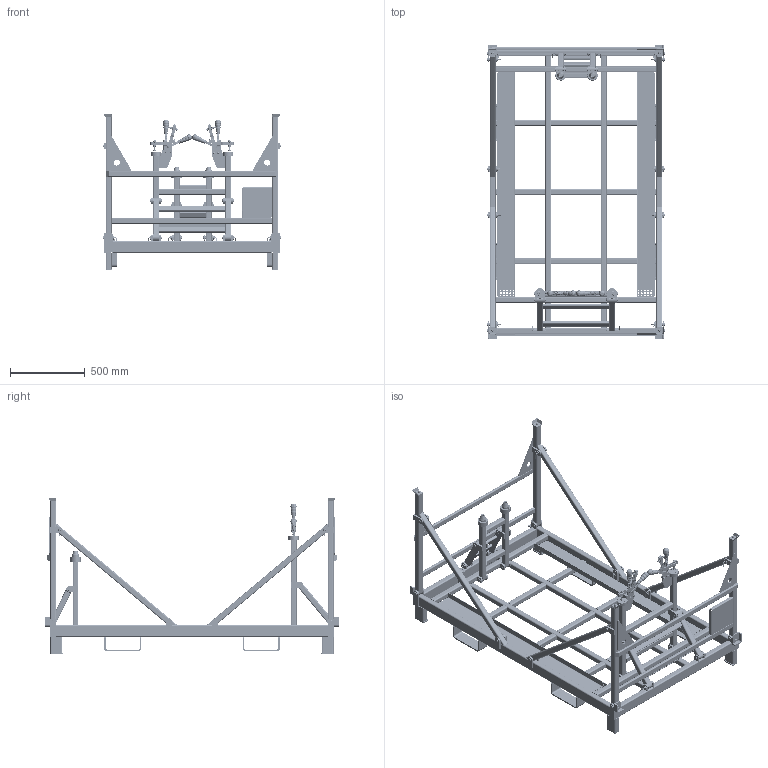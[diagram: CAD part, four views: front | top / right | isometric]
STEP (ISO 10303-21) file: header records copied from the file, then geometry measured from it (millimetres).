
FILE_DESCRIPTION( ( 'Unknown' ), '1' );
FILE_NAME( 'P:/Pripravky/FENWICK-LINDE/15296 - PALETA - KOVARIK/SKLADACI-TRACTEUR/15296_F/JT/15296_F.stp', 'Unknown', ( 'Unknown' ), ( 'Unknown' ), 'PSStep 16.0.42', 'Unknown', ' ' );
FILE_SCHEMA( ( 'AUTOMOTIVE_DESIGN { 1 0 10303 214 1 1 1 1 }' ) );
Length unit declared in the file: millimetre
Products named in the file (84): 214.1; Part17; 15296_01_10_00; 15296_01_10; 15296_01_12; 15296_06_01; 15296_03_03; 15296_01_10_00_zrc; 15296_01_10_zrc; 214.1-opened; 214.1-CLOSED; Sroub M8x25-8.8 ISO 4762; Podlozka 8-200 HV ISO 7089; Matice M8-6 ISO 4032; 15296_01_11_00; 15296_01_11; 15296_01_14; 15296_01_13; DOSED PALETY; DOSED PALETY 50x50x4; DOSED PALETY-CEP; 15296_05_01; 15296_02_01_00; 15296_02_01_01; 15296_06_00; 15296_06_02; 15296_01_00; 15296_01_04; 15296_01_16_zrc; 15296_01_05; 15296_01_01; 15296_01_07; 15296_01_02; 15296_01_03; 15296_01_06; 15296_01_08; 15296_01_09; 15296_01_11_zrc; 15296_01_17; 15296_01_15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
Assembly tree (206 placements, depth 5):
  Assem1
    15296_01_00
      15296_01_04  x6
      15296_01_16_zrc
      15296_01_10  x4
      15296_01_11  x5
      15296_01_05  x2
      15296_01_01  x2
      15296_01_07  x8
      15296_01_02  x2
      15296_01_03  x2
      15296_01_13  x4
      15296_01_06  x4
      15296_01_08  x4
      15296_01_09  x4
      15296_01_10_zrc
      15296_01_11_zrc  x2
      15296_01_17  x3
      15296_01_15  x4
      15296_01_16
      15296_01_11_00
        15296_01_11
        15296_01_12
      15296_01_14  x4
        15296_01_13
        15296_01_12
      15296_01_10_00  x2
        15296_01_10
        15296_01_12
      15296_01_10_00_zrc
        15296_01_10_zrc
        15296_01_12
    15296_06_00
      15296_06_02  x2
      15296_06_01  x2
        15296_03_03
        15296_06_01
    15296_02_00  x2
      15296_01_13
      15296_02_04
      15296_02_02
      15296_02_07
      15296_02_05
      15296_02_06
      15296_02_08
      15296_02_01
      15296_02_03
      15296_02_08_zrc
      DOSED PALETY
        DOSED PALETY 50x50x4
        DOSED PALETY-CEP
      15296_01_14
        15296_01_13
        15296_01_12
    15296_05_00
      15296_05_02  x2
      15296_05_01  x2
        15296_05_01
        15296_03_03
    15296_03_00
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Bounding box: 1196 x 1966 x 1052.89 mm (x, y, z)
Volume: 25895608.7 mm3; surface area: 12227930 mm2
Topology: 260 solids, 264 shells, 8470 faces, 26592 edges, 16788 vertices
Faces by surface type: plane 4615, cylinder 2079, cone 1468, torus 128, extrusion 96, bspline 84
Full cylindrical faces by diameter (mm): 1.7 x24, 3.242 x4, 4.3 x4, 4.917 x4, 5 x120, 6 x30, 6.4 x4, 6.647 x4, 7.998 x4, 8 x28, 8.04 x8, 8.4 x12, 8.5 x8, 10 x14, 10.1 x16, 10.106 x2, 10.25 x4, 11 x8, 12.5 x2, 13 x4, 15 x2, 16 x16, 17 x12, 18.5 x36, 19 x72, 20 x6, 22 x16, 25 x24, 40 x4, 47 x2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
Entity records: 169996 total; most frequent: CARTESIAN_POINT 40140, ORIENTED_EDGE 22896, DIRECTION 19041, EDGE_CURVE 11448, VERTEX_POINT 7344, AXIS2_PLACEMENT_3D 6517, VECTOR 6007, LINE 5971
